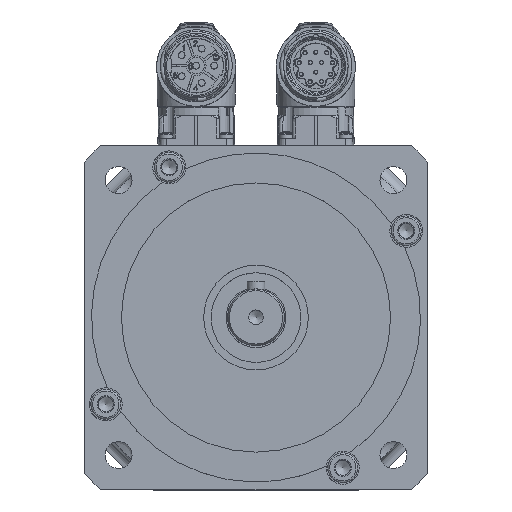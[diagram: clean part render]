
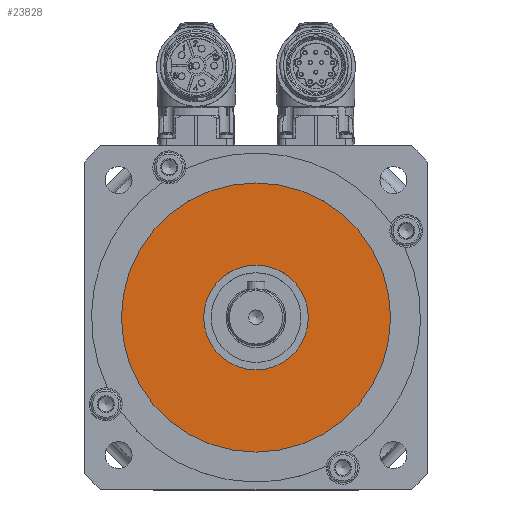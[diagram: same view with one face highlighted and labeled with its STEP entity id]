
A CAD part, top view. The second image highlights one B-rep face of the part: STEP entity #23828.
In plain terms, the highlighted planar face has unit normal (0, 0, 1).
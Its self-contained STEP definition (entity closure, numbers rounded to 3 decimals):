
#7151=FACE_BOUND('',#7762,.T.);
#7152=FACE_BOUND('',#7763,.T.);
#7762=EDGE_LOOP('',(#16744));
#7763=EDGE_LOOP('',(#16745));
#9601=CIRCLE('',#25346,17.5);
#9640=CIRCLE('',#25410,45.);
#10735=VERTEX_POINT('',#34363);
#10782=VERTEX_POINT('',#34490);
#13170=EDGE_CURVE('',#10735,#10735,#9601,.T.);
#13225=EDGE_CURVE('',#10782,#10782,#9640,.T.);
#16744=ORIENTED_EDGE('',*,*,#13170,.T.);
#16745=ORIENTED_EDGE('',*,*,#13225,.F.);
#23249=PLANE('',#25409);
#23828=ADVANCED_FACE('',(#7151,#7152),#23249,.T.);
#25346=AXIS2_PLACEMENT_3D('',#34364,#28021,#28022);
#25409=AXIS2_PLACEMENT_3D('',#34489,#28163,#28164);
#25410=AXIS2_PLACEMENT_3D('',#34491,#28165,#28166);
#28021=DIRECTION('center_axis',(0.,0.,-1.));
#28022=DIRECTION('ref_axis',(-1.,0.,0.));
#28163=DIRECTION('center_axis',(0.,0.,1.));
#28164=DIRECTION('ref_axis',(1.,0.,0.));
#28165=DIRECTION('center_axis',(0.,0.,-1.));
#28166=DIRECTION('ref_axis',(-1.,0.,0.));
#34363=CARTESIAN_POINT('',(17.5,0.,11.5));
#34364=CARTESIAN_POINT('Origin',(0.,0.,11.5));
#34489=CARTESIAN_POINT('Origin',(0.,0.,
11.5));
#34490=CARTESIAN_POINT('',(45.,0.,11.5));
#34491=CARTESIAN_POINT('Origin',(0.,0.,11.5));
